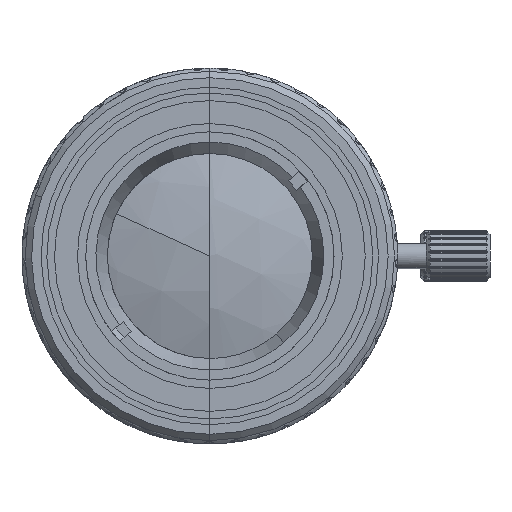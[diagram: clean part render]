
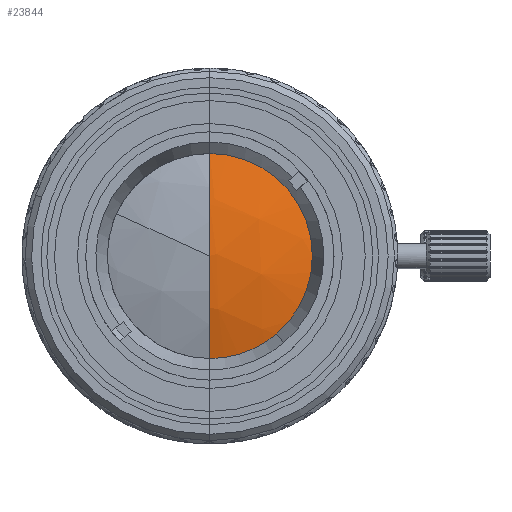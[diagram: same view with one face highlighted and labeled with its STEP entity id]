
A CAD part, left-side view. The second image highlights one B-rep face of the part: STEP entity #23844.
In plain terms, the highlighted spherical face has radius 25.964 mm.
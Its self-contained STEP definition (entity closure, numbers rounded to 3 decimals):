
#21 = AXIS2_PLACEMENT_3D ( 'NONE', #16168, #25246, #37370 ) ;
#3896 = AXIS2_PLACEMENT_3D ( 'NONE', #10000, #12387, #15369 ) ;
#4955 = VERTEX_POINT ( 'NONE', #36879 ) ;
#5696 = ORIENTED_EDGE ( 'NONE', *, *, #13610, .F. ) ;
#8696 = SPHERICAL_SURFACE ( 'NONE', #36032, 25.964 ) ;
#10000 = CARTESIAN_POINT ( 'NONE',  ( -795.776, 0., 0. ) ) ;
#10487 = CARTESIAN_POINT ( 'NONE',  ( -795.776, 0., 0. ) ) ;
#12387 = DIRECTION ( 'NONE',  ( -1., 0., 0. ) ) ;
#13610 = EDGE_CURVE ( 'NONE', #35915, #4955, #14582, .T. ) ;
#14455 = DIRECTION ( 'NONE',  ( 0., 0.911, 0.412 ) ) ;
#14582 = CIRCLE ( 'NONE', #21, 25.964 ) ;
#15369 = DIRECTION ( 'NONE',  ( 0., 0., -1. ) ) ;
#15621 = EDGE_LOOP ( 'NONE', ( #5696, #16516, #17213 ) ) ;
#16168 = CARTESIAN_POINT ( 'NONE',  ( -771.091, 0., 0. ) ) ;
#16516 = ORIENTED_EDGE ( 'NONE', *, *, #29691, .T. ) ;
#17213 = ORIENTED_EDGE ( 'NONE', *, *, #37044, .T. ) ;
#17803 = DIRECTION ( 'NONE',  ( 0., -0.412, 0.911 ) ) ;
#20391 = FACE_OUTER_BOUND ( 'NONE', #15621, .T. ) ;
#20774 = CARTESIAN_POINT ( 'NONE',  ( -771.091, 0., 0. ) ) ;
#22547 = DIRECTION ( 'NONE',  ( -1., 0., 0. ) ) ;
#23844 = ADVANCED_FACE ( 'NONE', ( #20391 ), #8696, .T. ) ;
#25246 = DIRECTION ( 'NONE',  ( 0., 0., 1. ) ) ;
#26181 = CARTESIAN_POINT ( 'NONE',  ( -795.776, 8.05, 0. ) ) ;
#29691 = EDGE_CURVE ( 'NONE', #35915, #37185, #33981, .T. ) ;
#31767 = CARTESIAN_POINT ( 'NONE',  ( -795.776, 6.125, -5.223 ) ) ;
#33338 = AXIS2_PLACEMENT_3D ( 'NONE', #10487, #22547, #35235 ) ;
#33981 = CIRCLE ( 'NONE', #33338, 8.05 ) ;
#34906 = CIRCLE ( 'NONE', #3896, 8.05 ) ;
#35235 = DIRECTION ( 'NONE',  ( 0., 0., -1. ) ) ;
#35915 = VERTEX_POINT ( 'NONE', #26181 ) ;
#36032 = AXIS2_PLACEMENT_3D ( 'NONE', #20774, #14455, #17803 ) ;
#36879 = CARTESIAN_POINT ( 'NONE',  ( -795.776, -8.05, 0. ) ) ;
#37044 = EDGE_CURVE ( 'NONE', #37185, #4955, #34906, .T. ) ;
#37185 = VERTEX_POINT ( 'NONE', #31767 ) ;
#37370 = DIRECTION ( 'NONE',  ( 0., -1., 0. ) ) ;
